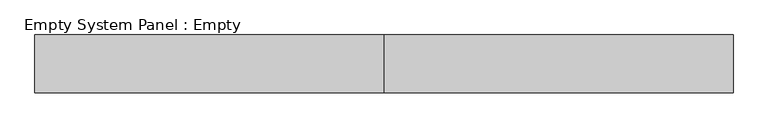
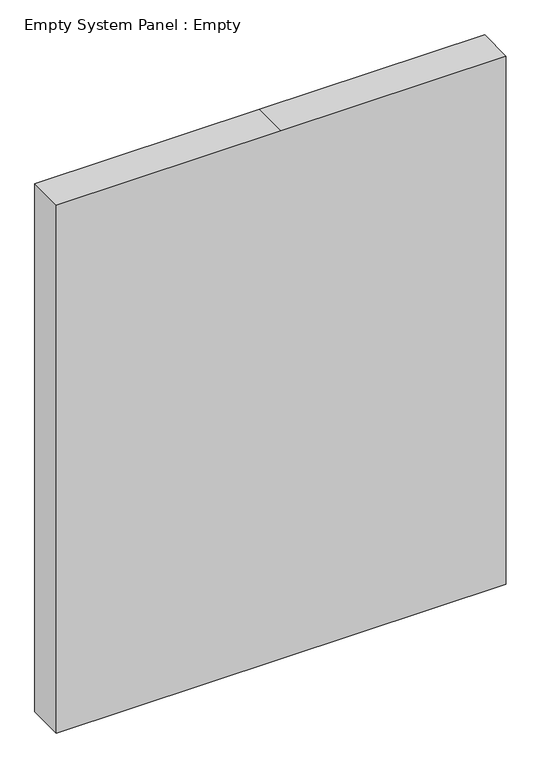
"""IFC4 building model written with IfcOpenShell, lengths in millimetres: plate geometry, Empty System Panel : Empty."""

from ifc_helpers import new_model, si_unit, frame, origin, place, context, project, spatial, polyline, outline, extrude, source, transform, mapped, element, save


def empty_system_panel_empty_9b879c41(model_context):
    return source(origin(), model_context, "Body", "SweptSolid", [
        extrude(outline(polyline([(0.0, -605.0), (0.0, 0.0), (0.0, 605.0), (1500.0, 605.0), (1500.0, 0.0), (1500.0, -605.0), (0.0, -605.0)])), frame((0.0, -150.0, 0.0), z_axis=(0.0, 1.0, 0.0), x_axis=(0.0, 0.0, 1.0)), (0.0, 0.0, 1.0), 100.0),
    ])


if __name__ == "__main__":
    model = new_model("IFC4")
    model_context = context("Model", 3, world=origin())
    ifc_project = project(units=[si_unit("LENGTHUNIT", "METRE", prefix="MILLI")], contexts=[model_context])
    site = spatial("IfcSite", under=ifc_project)
    building = spatial("IfcBuilding", under=site)
    placement = place(None, origin())
    empty_system_panel_empty_shape = empty_system_panel_empty_9b879c41(model_context)
    element("IfcPlate", 1, ObjectType="Empty System Panel : Empty", at=placement, inside=building, context=model_context, shape_type="MappedRepresentation", body=[
        mapped(empty_system_panel_empty_shape, transform((0.0, 0.0, 0.0), x_axis=(1.0, 0.0, 0.0), y_axis=(0.0, 1.0, 0.0), z_axis=(0.0, 0.0, 1.0))),
    ])
    save(model, "model.ifc")
